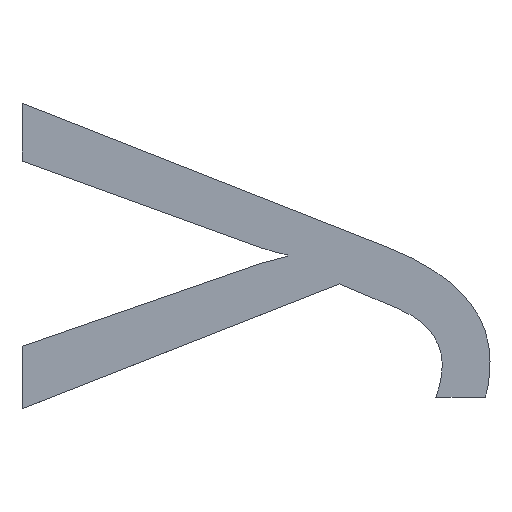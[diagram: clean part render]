
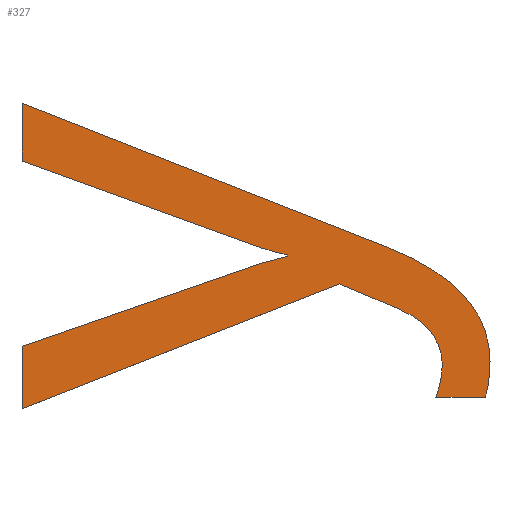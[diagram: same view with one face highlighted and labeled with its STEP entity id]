
A CAD part, top view. The second image highlights one B-rep face of the part: STEP entity #327.
In plain terms, the highlighted planar face has unit normal (0, 0, 1).
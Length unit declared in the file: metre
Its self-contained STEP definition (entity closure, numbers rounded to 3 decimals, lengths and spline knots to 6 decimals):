
#20=CIRCLE('',#463,0.000037);
#21=CIRCLE('',#464,0.000012);
#22=CIRCLE('',#465,0.000017);
#25=B_SPLINE_CURVE_WITH_KNOTS('',3,(#607,#608,#609,#610),.UNSPECIFIED.,
 .F.,.F.,(4,4),(5.,6.),.UNSPECIFIED.);
#26=B_SPLINE_CURVE_WITH_KNOTS('',3,(#618,#619,#620,#621),.UNSPECIFIED.,
 .F.,.F.,(4,4),(1.,2.),.UNSPECIFIED.);
#42=ORIENTED_EDGE('',*,*,#132,.T.);
#43=ORIENTED_EDGE('',*,*,#133,.T.);
#44=ORIENTED_EDGE('',*,*,#134,.T.);
#45=ORIENTED_EDGE('',*,*,#135,.T.);
#46=ORIENTED_EDGE('',*,*,#136,.T.);
#47=ORIENTED_EDGE('',*,*,#137,.T.);
#48=ORIENTED_EDGE('',*,*,#138,.T.);
#49=ORIENTED_EDGE('',*,*,#139,.T.);
#50=ORIENTED_EDGE('',*,*,#140,.T.);
#51=ORIENTED_EDGE('',*,*,#141,.T.);
#52=ORIENTED_EDGE('',*,*,#142,.T.);
#53=ORIENTED_EDGE('',*,*,#143,.T.);
#54=ORIENTED_EDGE('',*,*,#144,.T.);
#55=ORIENTED_EDGE('',*,*,#145,.T.);
#56=ORIENTED_EDGE('',*,*,#146,.T.);
#132=EDGE_CURVE('',#177,#178,#202,.T.);
#133=EDGE_CURVE('',#178,#179,#203,.T.);
#134=EDGE_CURVE('',#179,#180,#20,.T.);
#135=EDGE_CURVE('',#180,#181,#204,.T.);
#136=EDGE_CURVE('',#181,#182,#205,.T.);
#137=EDGE_CURVE('',#182,#183,#206,.T.);
#138=EDGE_CURVE('',#183,#184,#207,.T.);
#139=EDGE_CURVE('',#184,#185,#208,.T.);
#140=EDGE_CURVE('',#185,#186,#209,.T.);
#141=EDGE_CURVE('',#186,#187,#25,.T.);
#142=EDGE_CURVE('',#187,#188,#21,.T.);
#143=EDGE_CURVE('',#188,#189,#210,.T.);
#144=EDGE_CURVE('',#189,#190,#22,.T.);
#145=EDGE_CURVE('',#190,#191,#26,.T.);
#146=EDGE_CURVE('',#191,#177,#211,.T.);
#177=VERTEX_POINT('',#589);
#178=VERTEX_POINT('',#590);
#179=VERTEX_POINT('',#592);
#180=VERTEX_POINT('',#594);
#181=VERTEX_POINT('',#596);
#182=VERTEX_POINT('',#598);
#183=VERTEX_POINT('',#600);
#184=VERTEX_POINT('',#602);
#185=VERTEX_POINT('',#604);
#186=VERTEX_POINT('',#606);
#187=VERTEX_POINT('',#611);
#188=VERTEX_POINT('',#613);
#189=VERTEX_POINT('',#615);
#190=VERTEX_POINT('',#617);
#191=VERTEX_POINT('',#622);
#202=LINE('',#588,#237);
#203=LINE('',#591,#238);
#204=LINE('',#595,#239);
#205=LINE('',#597,#240);
#206=LINE('',#599,#241);
#207=LINE('',#601,#242);
#208=LINE('',#603,#243);
#209=LINE('',#605,#244);
#210=LINE('',#614,#245);
#211=LINE('',#623,#246);
#237=VECTOR('',#498,1.);
#238=VECTOR('',#499,1.);
#239=VECTOR('',#502,1.);
#240=VECTOR('',#503,1.);
#241=VECTOR('',#504,1.);
#242=VECTOR('',#505,1.);
#243=VECTOR('',#506,1.);
#244=VECTOR('',#507,1.);
#245=VECTOR('',#510,1.);
#246=VECTOR('',#513,1.);
#263=EDGE_LOOP('',(#42,#43,#44,#45,#46,#47,#48,#49,#50,#51,#52,#53,#54,
#55,#56));
#280=FACE_BOUND('',#263,.T.);
#297=PLANE('',#462);
#327=ADVANCED_FACE('',(#280),#297,.T.);
#462=AXIS2_PLACEMENT_3D('',#587,#496,#497);
#463=AXIS2_PLACEMENT_3D('',#593,#500,#501);
#464=AXIS2_PLACEMENT_3D('',#612,#508,#509);
#465=AXIS2_PLACEMENT_3D('',#616,#511,#512);
#496=DIRECTION('',(0.,0.,1.));
#497=DIRECTION('',(-1.,0.,0.));
#498=DIRECTION('',(0.,-1.,0.));
#499=DIRECTION('',(0.94,-0.341,0.));
#500=DIRECTION('',(0.,0.,1.));
#501=DIRECTION('',(-0.303,-0.953,0.));
#502=DIRECTION('',(0.,-1.,0.));
#503=DIRECTION('',(-0.968,-0.252,0.));
#504=DIRECTION('',(-0.945,-0.328,0.));
#505=DIRECTION('',(0.,-1.,0.));
#506=DIRECTION('',(0.931,0.366,0.));
#507=DIRECTION('',(0.921,-0.39,0.));
#508=DIRECTION('',(0.,0.,-1.));
#509=DIRECTION('',(1.,-0.009,0.));
#510=DIRECTION('',(1.,0.,0.));
#511=DIRECTION('',(0.,0.,1.));
#512=DIRECTION('',(0.964,-0.265,0.));
#513=DIRECTION('',(-0.93,0.367,0.));
#587=CARTESIAN_POINT('',(-0.070661,-0.023004,0.010548));
#588=CARTESIAN_POINT('',(-0.070721,-0.022985,0.010548));
#589=CARTESIAN_POINT('',(-0.070721,-0.022977,0.010548));
#590=CARTESIAN_POINT('',(-0.070721,-0.022985,0.010548));
#591=CARTESIAN_POINT('',(-0.070688,-0.022997,0.010548));
#592=CARTESIAN_POINT('',(-0.070688,-0.022997,0.010548));
#593=CARTESIAN_POINT('',(-0.070677,-0.022962,0.010548));
#594=CARTESIAN_POINT('',(-0.070685,-0.022998,0.010548));
#595=CARTESIAN_POINT('',(-0.070685,-0.022998,0.010548));
#596=CARTESIAN_POINT('',(-0.070685,-0.022998,0.010548));
#597=CARTESIAN_POINT('',(-0.070689,-0.022999,0.010548));
#598=CARTESIAN_POINT('',(-0.070689,-0.022999,0.010548));
#599=CARTESIAN_POINT('',(-0.070721,-0.023011,0.010548));
#600=CARTESIAN_POINT('',(-0.070721,-0.023011,0.010548));
#601=CARTESIAN_POINT('',(-0.070721,-0.023019,0.010548));
#602=CARTESIAN_POINT('',(-0.070721,-0.023019,0.010548));
#603=CARTESIAN_POINT('',(-0.070678,-0.023002,0.010548));
#604=CARTESIAN_POINT('',(-0.070678,-0.023002,0.010548));
#605=CARTESIAN_POINT('',(-0.07067,-0.023005,0.010548));
#606=CARTESIAN_POINT('',(-0.07067,-0.023005,0.010548));
#607=CARTESIAN_POINT('',(-0.07067,-0.023005,0.010548));
#608=CARTESIAN_POINT('',(-0.070666,-0.023007,0.010548));
#609=CARTESIAN_POINT('',(-0.070664,-0.02301,0.010548));
#610=CARTESIAN_POINT('',(-0.070664,-0.023013,0.010548));
#611=CARTESIAN_POINT('',(-0.070664,-0.023013,0.010548));
#612=CARTESIAN_POINT('',(-0.070675,-0.023013,0.010548));
#613=CARTESIAN_POINT('',(-0.070665,-0.023018,0.010548));
#614=CARTESIAN_POINT('',(-0.070658,-0.023018,0.010548));
#615=CARTESIAN_POINT('',(-0.070658,-0.023018,0.010548));
#616=CARTESIAN_POINT('',(-0.070675,-0.023013,0.010548));
#617=CARTESIAN_POINT('',(-0.070657,-0.023013,0.010548));
#618=CARTESIAN_POINT('',(-0.070657,-0.023013,0.010548));
#619=CARTESIAN_POINT('',(-0.070657,-0.023006,0.010548));
#620=CARTESIAN_POINT('',(-0.070662,-0.023001,0.010548));
#621=CARTESIAN_POINT('',(-0.070671,-0.022997,0.010548));
#622=CARTESIAN_POINT('',(-0.070671,-0.022997,0.010548));
#623=CARTESIAN_POINT('',(-0.070721,-0.022977,0.010548));
